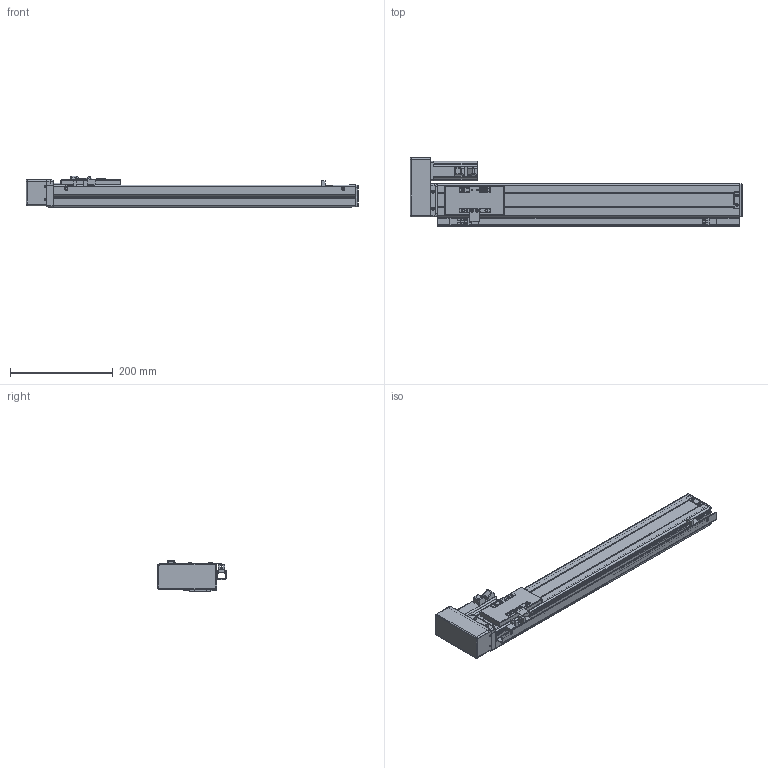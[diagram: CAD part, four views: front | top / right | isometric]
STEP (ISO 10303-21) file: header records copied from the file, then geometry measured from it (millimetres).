
FILE_DESCRIPTION (( 'STEP AP203' ), '1' );
FILE_NAME ('VT6-L10-C-S440-BR-P10-D4.STEP', '2015-10-26T06:17:00', ( '' ), ( '' ), 'SwSTEP 2.0', 'SolidWorks 2013', '' );
FILE_SCHEMA (( 'CONFIG_CONTROL_DESIGN' ));
Length unit declared in the file: millimetre
Products named in the file (17): T6-覜茼え; ET6-BC耜啣_440; T6-賑雄殤; T6-裔啣; T6-揤輸; T6-綴傷裔; EE-XS674; ET6-BLRM絳寢_俴最440; ET6-BLRM滅鳥湍_440; ET6-BLRM佪裝_440; VT6-L10-C-S440-BR-P10-D4; T6-BMLRヶ傷裔; ET6-BC癹弇羲壽羞_440; T6-BMRLヶ傷裔揤啣; T6-BMRL肮祭湍謫欶; 侂狟100W MSMD012G1U; T6-BRL萇儂假蚾啣
Assembly tree (19 placements, depth 2):
  VT6-L10-C-S440-BR-P10-D4
    ET6-BC耜啣_440  x2
    T6-賑雄殤
    T6-裔啣
    T6-揤輸
    T6-綴傷裔
    ET6-BLRM絳寢_俴最440
    ET6-BLRM滅鳥湍_440
    ET6-BLRM佪裝_440
    T6-BMLRヶ傷裔
    T6-BMRLヶ傷裔揤啣
    T6-BMRL肮祭湍謫欶
    侂狟100W MSMD012G1U
    T6-BRL萇儂假蚾啣
    T6-覜茼え
    ET6-BC癹弇羲壽羞_440
    EE-XS674  x3
Bounding box: 647 x 133 x 61 mm (x, y, z)
Volume: 811624.2 mm3; surface area: 506194.5 mm2
Topology: 19 solids, 19 shells, 901 faces, 2388 edges, 1512 vertices
Faces by surface type: cylinder 427, plane 374, cone 46, torus 36, sphere 18
Entity records: 27841 total; most frequent: CARTESIAN_POINT 4681, DIRECTION 4658, ORIENTED_EDGE 4294, EDGE_CURVE 2147, AXIS2_PLACEMENT_3D 1709, VERTEX_POINT 1372, LINE 1240, VECTOR 1240
